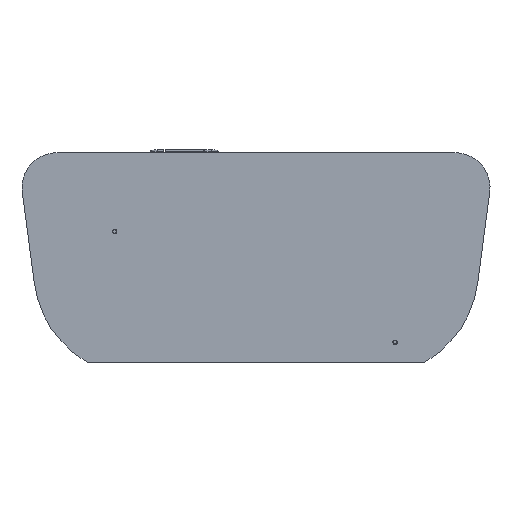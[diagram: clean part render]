
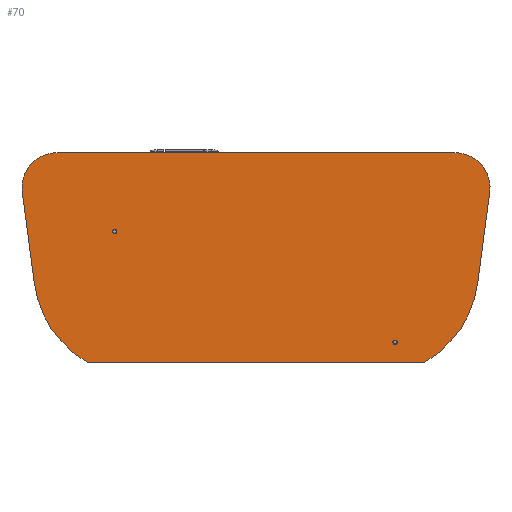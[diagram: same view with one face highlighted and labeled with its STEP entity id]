
A CAD part, left-side view. The second image highlights one B-rep face of the part: STEP entity #70.
In plain terms, the highlighted planar face has unit normal (-1, 0, 0).
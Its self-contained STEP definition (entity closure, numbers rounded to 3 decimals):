
#70=ADVANCED_FACE('',(#125),#749,.T.);
#125=FACE_OUTER_BOUND('',#180,.T.);
#180=EDGE_LOOP('',(#366,#367,#368,#369,#370,#371,#372,#373));
#366=ORIENTED_EDGE('',*,*,#506,.F.);
#367=ORIENTED_EDGE('',*,*,#523,.F.);
#368=ORIENTED_EDGE('',*,*,#526,.F.);
#369=ORIENTED_EDGE('',*,*,#528,.F.);
#370=ORIENTED_EDGE('',*,*,#510,.T.);
#371=ORIENTED_EDGE('',*,*,#520,.T.);
#372=ORIENTED_EDGE('',*,*,#518,.T.);
#373=ORIENTED_EDGE('',*,*,#515,.T.);
#506=EDGE_CURVE('',#701,#700,#634,.T.);
#510=EDGE_CURVE('',#704,#705,#638,.T.);
#515=EDGE_CURVE('',#709,#700,#553,.T.);
#518=EDGE_CURVE('',#711,#709,#555,.T.);
#520=EDGE_CURVE('',#705,#711,#557,.T.);
#523=EDGE_CURVE('',#713,#701,#559,.T.);
#526=EDGE_CURVE('',#715,#713,#561,.T.);
#528=EDGE_CURVE('',#704,#715,#563,.T.);
#553=(
BOUNDED_CURVE()
B_SPLINE_CURVE(2,(#1574,#1575,#1576),.UNSPECIFIED.,.F.,.F.)
B_SPLINE_CURVE_WITH_KNOTS((3,3),(-773.853,-600.104),
 .UNSPECIFIED.)
CURVE()
GEOMETRIC_REPRESENTATION_ITEM()
RATIONAL_B_SPLINE_CURVE((1.,0.895,1.))
REPRESENTATION_ITEM('')
);
#555=(
BOUNDED_CURVE()
B_SPLINE_CURVE(2,(#1582,#1583,#1584),.UNSPECIFIED.,.F.,.F.)
B_SPLINE_CURVE_WITH_KNOTS((3,3),(-936.692,-773.853),
 .UNSPECIFIED.)
CURVE()
GEOMETRIC_REPRESENTATION_ITEM()
RATIONAL_B_SPLINE_CURVE((1.,1.,1.))
REPRESENTATION_ITEM('')
);
#557=(
BOUNDED_CURVE()
B_SPLINE_CURVE(2,(#1588,#1589,#1590,#1591,#1592),.UNSPECIFIED.,.F.,.F.)
B_SPLINE_CURVE_WITH_KNOTS((3,2,3),(-1042.251,-989.472,
-936.692),.UNSPECIFIED.)
CURVE()
GEOMETRIC_REPRESENTATION_ITEM()
RATIONAL_B_SPLINE_CURVE((1.,0.911,1.,0.911,1.))
REPRESENTATION_ITEM('')
);
#559=(
BOUNDED_CURVE()
B_SPLINE_CURVE(2,(#1600,#1601,#1602),.UNSPECIFIED.,.F.,.F.)
B_SPLINE_CURVE_WITH_KNOTS((3,3),(-773.853,-600.104),
 .UNSPECIFIED.)
CURVE()
GEOMETRIC_REPRESENTATION_ITEM()
RATIONAL_B_SPLINE_CURVE((1.,0.895,1.))
REPRESENTATION_ITEM('')
);
#561=(
BOUNDED_CURVE()
B_SPLINE_CURVE(2,(#1608,#1609,#1610),.UNSPECIFIED.,.F.,.F.)
B_SPLINE_CURVE_WITH_KNOTS((3,3),(-936.692,-773.853),
 .UNSPECIFIED.)
CURVE()
GEOMETRIC_REPRESENTATION_ITEM()
RATIONAL_B_SPLINE_CURVE((1.,1.,1.))
REPRESENTATION_ITEM('')
);
#563=(
BOUNDED_CURVE()
B_SPLINE_CURVE(2,(#1614,#1615,#1616,#1617,#1618),.UNSPECIFIED.,.F.,.F.)
B_SPLINE_CURVE_WITH_KNOTS((3,2,3),(-1042.251,-989.472,
-936.692),.UNSPECIFIED.)
CURVE()
GEOMETRIC_REPRESENTATION_ITEM()
RATIONAL_B_SPLINE_CURVE((1.,0.911,1.,0.911,1.))
REPRESENTATION_ITEM('')
);
#634=B_SPLINE_CURVE_WITH_KNOTS('',1,(#1556,#1557),.UNSPECIFIED.,.F.,.F.,
(2,2),(0.,1.),.UNSPECIFIED.);
#638=B_SPLINE_CURVE_WITH_KNOTS('',1,(#1564,#1565),.UNSPECIFIED.,.F.,.F.,
(2,2),(0.,1.),.UNSPECIFIED.);
#700=VERTEX_POINT('',#1540);
#701=VERTEX_POINT('',#1541);
#704=VERTEX_POINT('',#1544);
#705=VERTEX_POINT('',#1545);
#709=VERTEX_POINT('',#1549);
#711=VERTEX_POINT('',#1551);
#713=VERTEX_POINT('',#1553);
#715=VERTEX_POINT('',#1555);
#749=PLANE('',#884);
#884=AXIS2_PLACEMENT_3D('',#1530,#924,$);
#924=DIRECTION('',(-1.,0.,0.));
#1530=CARTESIAN_POINT('',(0.,-425.284,8.295));
#1540=CARTESIAN_POINT('',(0.,298.052,12.));
#1541=CARTESIAN_POINT('',(0.,-298.052,12.));
#1544=CARTESIAN_POINT('',(0.,-351.79,382.5));
#1545=CARTESIAN_POINT('',(0.,351.79,382.5));
#1549=CARTESIAN_POINT('',(0.,391.857,150.926));
#1551=CARTESIAN_POINT('',(0.,413.252,312.354));
#1553=CARTESIAN_POINT('',(0.,-391.857,150.926));
#1555=CARTESIAN_POINT('',(0.,-413.252,312.354));
#1556=CARTESIAN_POINT('',(0.,-298.052,12.));
#1557=CARTESIAN_POINT('',(0.,298.052,12.));
#1564=CARTESIAN_POINT('',(0.,-351.79,382.5));
#1565=CARTESIAN_POINT('',(0.,351.79,382.5));
#1574=CARTESIAN_POINT('',(0.,391.857,150.926));
#1575=CARTESIAN_POINT('',(0.,379.554,58.101));
#1576=CARTESIAN_POINT('',(0.,298.052,12.));
#1582=CARTESIAN_POINT('',(0.,413.252,312.354));
#1583=CARTESIAN_POINT('',(0.,402.555,231.64));
#1584=CARTESIAN_POINT('',(0.,391.857,150.926));
#1588=CARTESIAN_POINT('',(0.,351.79,382.5));
#1589=CARTESIAN_POINT('',(0.,379.898,382.5));
#1590=CARTESIAN_POINT('',(0.,398.422,361.359));
#1591=CARTESIAN_POINT('',(0.,416.945,340.218));
#1592=CARTESIAN_POINT('',(0.,413.252,312.354));
#1600=CARTESIAN_POINT('',(0.,-391.857,150.926));
#1601=CARTESIAN_POINT('',(0.,-379.554,58.101));
#1602=CARTESIAN_POINT('',(0.,-298.052,12.));
#1608=CARTESIAN_POINT('',(0.,-413.252,312.354));
#1609=CARTESIAN_POINT('',(0.,-402.555,231.64));
#1610=CARTESIAN_POINT('',(0.,-391.857,150.926));
#1614=CARTESIAN_POINT('',(0.,-351.79,382.5));
#1615=CARTESIAN_POINT('',(0.,-379.898,382.5));
#1616=CARTESIAN_POINT('',(0.,-398.422,361.359));
#1617=CARTESIAN_POINT('',(0.,-416.945,340.218));
#1618=CARTESIAN_POINT('',(0.,-413.252,312.354));
